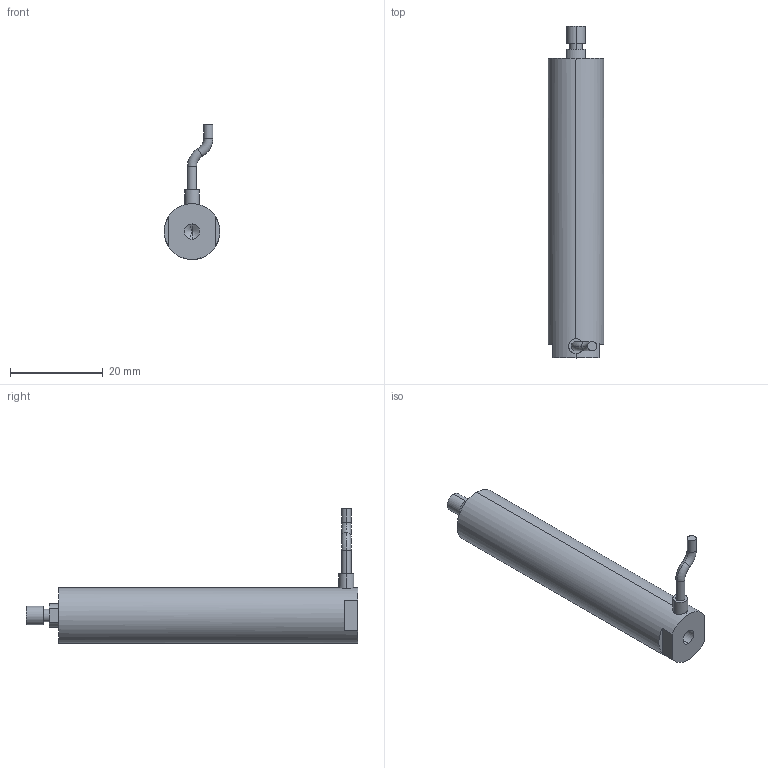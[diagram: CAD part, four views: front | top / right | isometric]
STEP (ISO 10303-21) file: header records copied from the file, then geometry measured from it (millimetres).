
FILE_DESCRIPTION (( 'STEP AP203' ), '1' );
FILE_NAME ('俋蹟恇宒60VS12.STEP', '2020-08-19T06:00:38', ( 'User' ), ( 'china' ), 'SwSTEP 2.0', 'SolidWorks 2016', '' );
FILE_SCHEMA (( 'CONFIG_CONTROL_DESIGN' ));
Length unit declared in the file: millimetre
Products named in the file (1): 俋蹟恇宒60VS12
Bounding box: 12 x 71.5 x 29.08 mm (x, y, z)
Volume: 7374.8 mm3; surface area: 2953.4 mm2
Topology: 1 solids, 1 shells, 929 faces, 2492 edges, 1657 vertices
Faces by surface type: bspline 511, plane 306, cylinder 106, torus 4, cone 2
Entity records: 43640 total; most frequent: CARTESIAN_POINT 24887, ORIENTED_EDGE 4980, EDGE_CURVE 2490, DIRECTION 1919, B_SPLINE_CURVE_WITH_KNOTS 1677, VERTEX_POINT 1657, EDGE_LOOP 1023, ADVANCED_FACE 929
